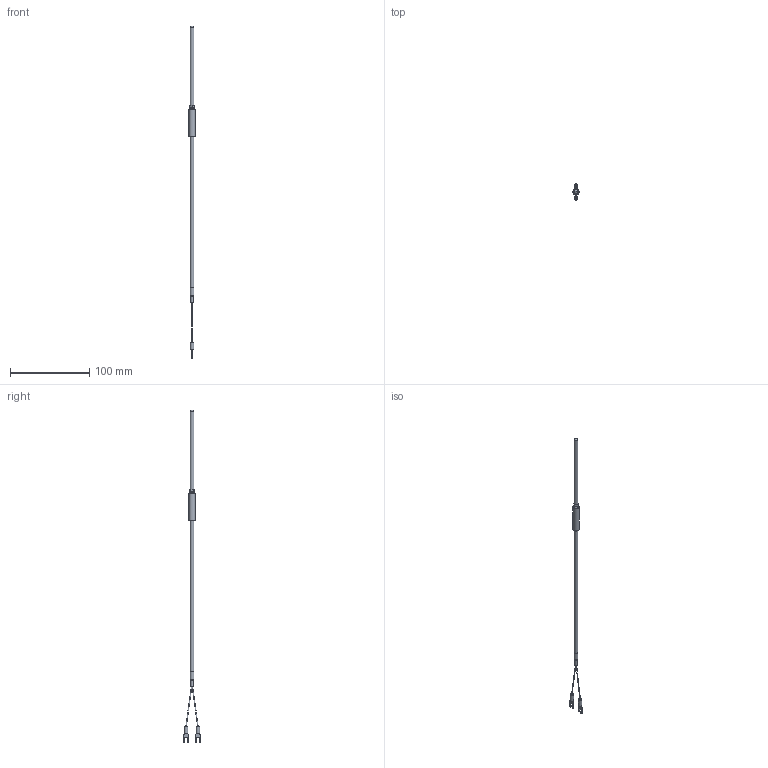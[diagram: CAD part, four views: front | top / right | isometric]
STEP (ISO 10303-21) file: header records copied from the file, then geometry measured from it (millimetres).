
FILE_DESCRIPTION (( 'STEP AP203' ), '1' );
FILE_NAME ('YIT101-4(0).STEP', '2024-11-21T04:00:37', ( '' ), ( '' ), 'SwSTEP 2.0', 'SolidWorks 2021', '' );
FILE_SCHEMA (( 'CONFIG_CONTROL_DESIGN' ));
Length unit declared in the file: millimetre
Products named in the file (1): YIT101-4(0)
Bounding box: 8 x 20.85 x 420 mm (x, y, z)
Volume: 7958.8 mm3; surface area: 6509.9 mm2
Topology: 1 solids, 1 shells, 67 faces, 163 edges, 106 vertices
Faces by surface type: plane 34, cylinder 21, bspline 8, cone 3, torus 1
Full cylindrical faces by diameter (mm): 3.16 x1, 4.5 x2, 4.8 x1, 5 x2, 8 x1
Entity records: 2125 total; most frequent: CARTESIAN_POINT 562, DIRECTION 300, ORIENTED_EDGE 290, EDGE_CURVE 145, AXIS2_PLACEMENT_3D 107, VERTEX_POINT 101, EDGE_LOOP 88, VECTOR 86
